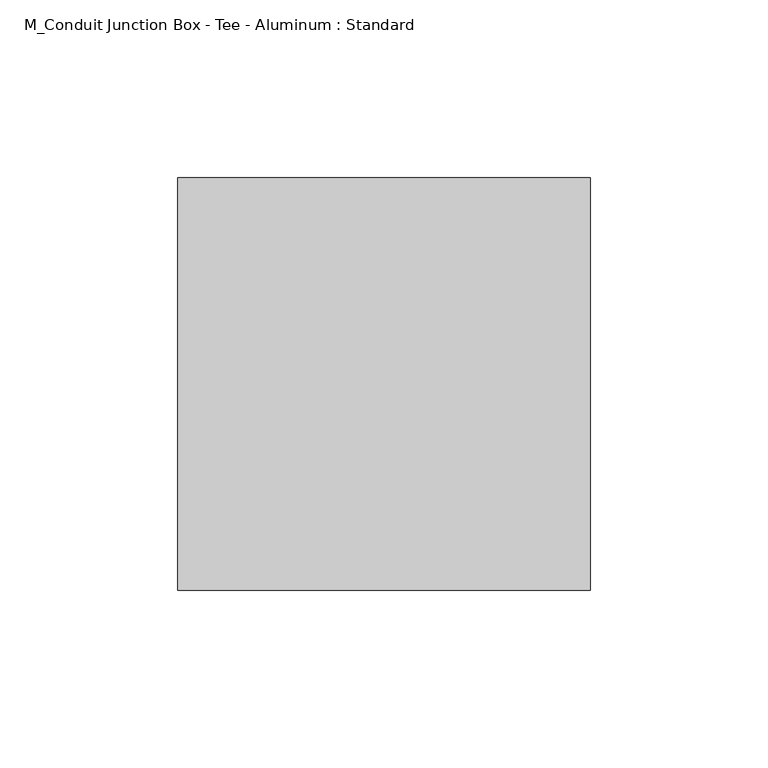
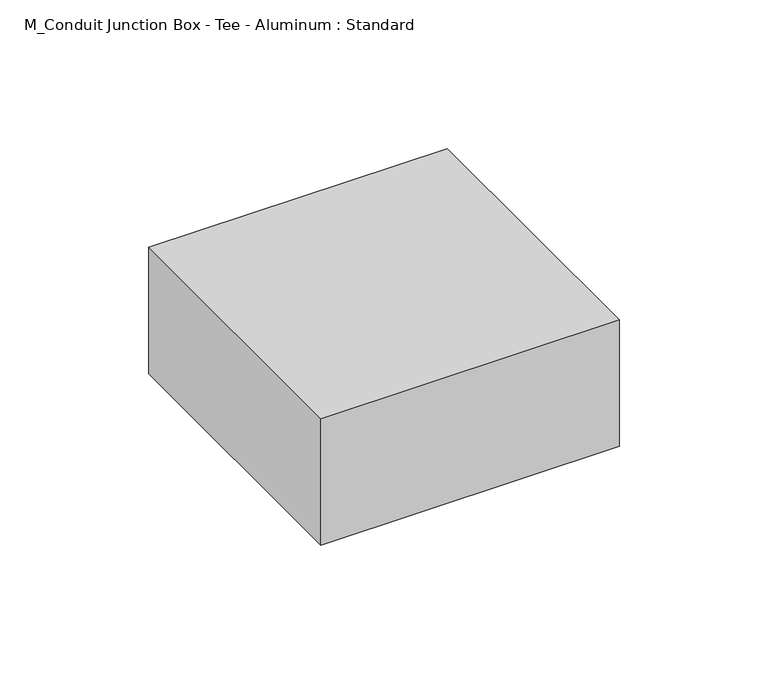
"""IFC4 building model written with IfcOpenShell, lengths in millimetres: cable carrier fitting geometry, M_Conduit Junction Box - Tee - Aluminum : Standard."""

import ifcopenshell
import ifcopenshell.guid

model = None  # the IFC model being written
_history = None  # IfcOwnerHistory: only IFC2X3 demands one
_inside = {}  # id of a spatial element -> (the spatial element, [elements in it])
_under = {}  # id of a project, library or spatial element -> (it, [spatial elements below it])
_declared = {}  # id of a project -> (the project, [libraries it declares])
_typed = {}  # id of a type object -> (the type object, [elements of that type])
_made_of = {}  # id of a material, layer set ... -> (it, [elements and type objects made of it])


def new_model(schema):
    """Start an empty IFC model of exactly this schema.

    Asked for "IFC4X3", IfcOpenShell would pick the latest addendum, in which some entities
    have other attributes; the version numbers below select the first issue.
    IFC2X3 requires an IfcOwnerHistory on every rooted entity: one is made here for all.
    """
    global model, _history
    if schema == "IFC4X3":
        model = ifcopenshell.file(schema_version=(4, 3, 0, 0))
    else:
        model = ifcopenshell.file(schema=schema)
    _inside.clear()
    _under.clear()
    _declared.clear()
    _typed.clear()
    _made_of.clear()
    _history = None
    if model.schema == "IFC2X3":
        org = make("IfcOrganization", Name="unknown")
        user = make(
            "IfcPersonAndOrganization",
            ThePerson=make("IfcPerson", FamilyName="unknown"),
            TheOrganization=org,
        )
        app = make(
            "IfcApplication",
            ApplicationDeveloper=org,
            Version="unknown",
            ApplicationFullName="unknown",
            ApplicationIdentifier="unknown",
        )
        _history = make(
            "IfcOwnerHistory",
            OwningUser=user,
            OwningApplication=app,
            ChangeAction="ADDED",
            CreationDate=0,
        )
    return model


def make(cls, **values):
    """One entity of the class cls with the attributes given. An attribute that is None is left unset."""
    return model.create_entity(
        cls, **{name: value for name, value in values.items() if value is not None}
    )


def rooted(cls, **values):
    """An entity with a GlobalId (a new one), such as an element, a storey or a relation."""
    return make(cls, GlobalId=ifcopenshell.guid.new(), OwnerHistory=_history, **values)


def si_unit(unit_type, name, prefix=None):
    """IfcSIUnit, for example si_unit("LENGTHUNIT", "METRE", prefix="MILLI")."""
    return make("IfcSIUnit", UnitType=unit_type, Prefix=prefix, Name=name)


def assignment(units):
    """IfcUnitAssignment: the units of a project."""
    return None if units is None else make("IfcUnitAssignment", Units=units)


def point(xyz):
    """IfcCartesianPoint."""
    return None if xyz is None else make("IfcCartesianPoint", Coordinates=xyz)


def direction(xyz):
    """IfcDirection."""
    return None if xyz is None else make("IfcDirection", DirectionRatios=xyz)


def frame(location, z_axis=None, x_axis=None):
    """IfcAxis2Placement3D, a coordinate frame: its origin and axes. An axis left out is left unset."""
    return make(
        "IfcAxis2Placement3D",
        Location=point(location),
        Axis=direction(z_axis),
        RefDirection=direction(x_axis),
    )


def origin():
    """The frame at (0, 0, 0) with its axes left unset."""
    return frame((0.0, 0.0, 0.0))


def place(relative_to, where):
    """IfcLocalPlacement: puts the frame where relative to a parent placement (None: the world)."""
    return make(
        "IfcLocalPlacement", PlacementRelTo=relative_to, RelativePlacement=where
    )


def context(
    kind, dimensions, precision=None, world=None, true_north=None, identifier=None
):
    """IfcGeometricRepresentationContext, for example the 3D "Model" context."""
    return make(
        "IfcGeometricRepresentationContext",
        ContextIdentifier=identifier,
        ContextType=kind,
        CoordinateSpaceDimension=dimensions,
        Precision=precision,
        WorldCoordinateSystem=world,
        TrueNorth=true_north,
    )


def project(units=None, contexts=None):
    """IfcProject with its units and contexts."""
    return rooted(
        "IfcProject",
        Name="project",
        RepresentationContexts=contexts,
        UnitsInContext=assignment(units),
    )


def spatial(cls, under=None, at=None, **own):
    """A site, building, storey or space (cls), placed at a placement, below another one or the project."""
    s = rooted(cls, ObjectPlacement=at, **own)
    if under is not None:
        _under.setdefault(under.id(), (under, []))[1].append(s)
    return s


def polyline(points):
    """IfcPolyline through the points."""
    return make("IfcPolyline", Points=[point(p) for p in points])


def outline(outer, holes=None, kind="AREA"):
    """IfcArbitraryClosedProfileDef: a profile drawn as a closed curve; with holes, ...WithVoids."""
    if holes is None:
        return make("IfcArbitraryClosedProfileDef", ProfileType=kind, OuterCurve=outer)
    return make(
        "IfcArbitraryProfileDefWithVoids",
        ProfileType=kind,
        OuterCurve=outer,
        InnerCurves=holes,
    )


def extrude(swept, where, along, depth):
    """IfcExtrudedAreaSolid: the profile swept, set in the frame where, extruded along a direction by depth."""
    return make(
        "IfcExtrudedAreaSolid",
        SweptArea=swept,
        Position=where,
        ExtrudedDirection=direction(along),
        Depth=depth,
    )


def shape(context_of_items, identifier, shape_type, items):
    """IfcShapeRepresentation: the items that make up one representation, for example the "Body"."""
    return make(
        "IfcShapeRepresentation",
        ContextOfItems=context_of_items,
        RepresentationIdentifier=identifier,
        RepresentationType=shape_type,
        Items=items,
    )


def source(mapping_origin, context_of_items, identifier, shape_type, items):
    """IfcRepresentationMap: a shape defined once, which mapped items show again and again."""
    return make(
        "IfcRepresentationMap",
        MappingOrigin=mapping_origin,
        MappedRepresentation=shape(context_of_items, identifier, shape_type, items),
    )


def transform(
    local_origin,
    x_axis=None,
    y_axis=None,
    z_axis=None,
    scale=None,
    scale2=None,
    scale3=None,
    uniform=True,
):
    """IfcCartesianTransformationOperator3D, or its non-uniform kind. x_axis, y_axis, z_axis: its Axis1, 2, 3."""
    if uniform:
        return make(
            "IfcCartesianTransformationOperator3D",
            Axis1=direction(x_axis),
            Axis2=direction(y_axis),
            LocalOrigin=point(local_origin),
            Scale=scale,
            Axis3=direction(z_axis),
        )
    return make(
        "IfcCartesianTransformationOperator3DnonUniform",
        Axis1=direction(x_axis),
        Axis2=direction(y_axis),
        LocalOrigin=point(local_origin),
        Scale=scale,
        Axis3=direction(z_axis),
        Scale2=scale2,
        Scale3=scale3,
    )


def mapped(mapping_source, mapping_target):
    """IfcMappedItem: shows the shape of a source again, moved by a transform."""
    return make(
        "IfcMappedItem", MappingSource=mapping_source, MappingTarget=mapping_target
    )


def made_of(thing, what):
    """Note that an element or type object is made of a material, layer set ...; save() writes the relation."""
    if what is not None:
        _made_of.setdefault(what.id(), (what, []))[1].append(thing)
    return thing


def element(
    cls,
    number,
    at=None,
    inside=None,
    cuts=None,
    type_object=None,
    material=None,
    context=None,
    identifier="Body",
    shape_type=None,
    held_by="IfcProductDefinitionShape",
    body=None,
    shapes=None,
    **own,
):
    """One element of the class cls, such as IfcWall. Its Tag is "e" and its number.

    at: its placement. inside: the storey or other place that contains it. cuts: it is an
    opening in that element (IfcRelVoidsElement). A single representation is given by context,
    identifier, shape_type and body (its items); several are given by shapes. held_by: the class
    of the entity that holds the representations. save() writes the other relations.
    """
    e = rooted(cls, Tag="e%d" % number, ObjectPlacement=at, **own)
    if body is not None:
        shapes = [shape(context, identifier, shape_type, body)]
    if shapes is not None:
        e.Representation = make(held_by, Representations=shapes)
    if inside is not None:
        _inside.setdefault(inside.id(), (inside, []))[1].append(e)
    if cuts is not None:
        rooted(
            "IfcRelVoidsElement", RelatingBuildingElement=cuts, RelatedOpeningElement=e
        )
    if type_object is not None:
        _typed.setdefault(type_object.id(), (type_object, []))[1].append(e)
    return made_of(e, material)


def aggregate(whole, parts):
    """IfcRelAggregates: a whole, such as a stair, and the parts it consists of."""
    return rooted("IfcRelAggregates", RelatingObject=whole, RelatedObjects=parts)


def save(model, path):
    """Write the relations noted so far, then the file.

    IfcRelAggregates (storeys below a building ...), IfcRelContainedInSpatialStructure (elements
    in a storey), IfcRelDefinesByType, IfcRelAssociatesMaterial and IfcRelDeclares: one each for
    every whole, place, type object, material and project.
    """
    for whole, parts in _under.values():
        aggregate(whole, parts)
    for where, things in _inside.values():
        rooted(
            "IfcRelContainedInSpatialStructure",
            RelatedElements=things,
            RelatingStructure=where,
        )
    for kind, things in _typed.values():
        rooted("IfcRelDefinesByType", RelatedObjects=things, RelatingType=kind)
    for what, things in _made_of.values():
        rooted("IfcRelAssociatesMaterial", RelatedObjects=things, RelatingMaterial=what)
    for by, libraries in _declared.values():
        rooted("IfcRelDeclares", RelatingContext=by, RelatedDefinitions=libraries)
    model.write(path)


def m_conduit_junction_box_tee_aluminum_standard_c91b5ff9(model_context):
    return source(origin(), model_context, "Body", "SweptSolid", [
        extrude(outline(polyline([(58.0, -58.0), (-58.0, -58.0), (-58.0, 58.0), (58.0, 58.0), (58.0, -58.0)])), frame((0.0, 0.0, -26.0), z_axis=(0.0, 0.0, 1.0), x_axis=(1.0, 0.0, 0.0)), (0.0, 0.0, 1.0), 52.0),
    ])


if __name__ == "__main__":
    model = new_model("IFC4")
    model_context = context("Model", 3, world=origin())
    ifc_project = project(units=[si_unit("LENGTHUNIT", "METRE", prefix="MILLI")], contexts=[model_context])
    site = spatial("IfcSite", under=ifc_project)
    building = spatial("IfcBuilding", under=site)
    placement = place(None, origin())
    m_conduit_junction_box_tee_aluminum_standard_shape = m_conduit_junction_box_tee_aluminum_standard_c91b5ff9(model_context)
    element("IfcCableCarrierFitting", 1, ObjectType="M_Conduit Junction Box - Tee - Aluminum : Standard", at=placement, inside=building, context=model_context, shape_type="MappedRepresentation", body=[
        mapped(m_conduit_junction_box_tee_aluminum_standard_shape, transform((0.0, 0.0, 0.0), x_axis=(1.0, 0.0, 0.0), y_axis=(0.0, 1.0, 0.0), z_axis=(0.0, 0.0, 1.0))),
    ])
    save(model, "model.ifc")
